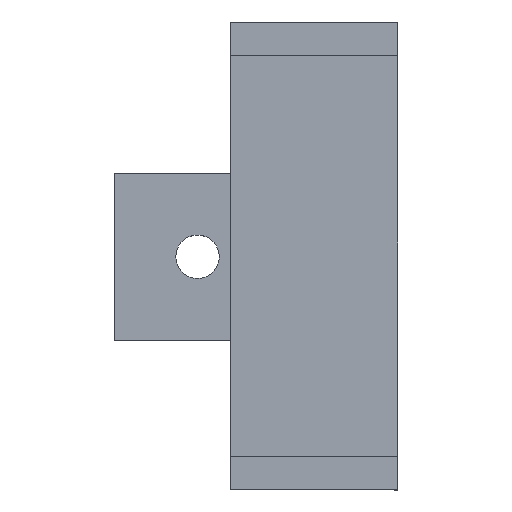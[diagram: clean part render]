
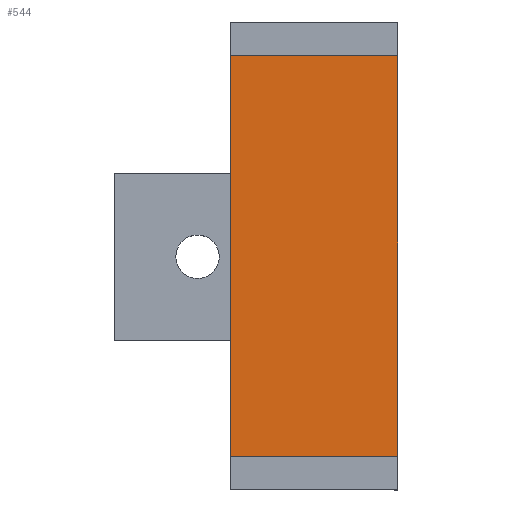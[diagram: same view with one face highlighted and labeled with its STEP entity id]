
A CAD part, top view. The second image highlights one B-rep face of the part: STEP entity #544.
In plain terms, the highlighted planar face has unit normal (0, 0, 1) as drawn and (0, 1, 0) by its records, which use the part's own axes.
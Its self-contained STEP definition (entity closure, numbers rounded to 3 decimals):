
#16 = DIRECTION ( 'NONE',  ( -1., 0., 0. ) ) ;
#26 = EDGE_LOOP ( 'NONE', ( #539, #100, #113, #278 ) ) ;
#62 = LINE ( 'NONE', #482, #244 ) ;
#66 = EDGE_CURVE ( 'NONE', #92, #468, #324, .T. ) ;
#92 = VERTEX_POINT ( 'NONE', #487 ) ;
#100 = ORIENTED_EDGE ( 'NONE', *, *, #538, .F. ) ;
#101 = DIRECTION ( 'NONE',  ( -1., 0., 0. ) ) ;
#110 = AXIS2_PLACEMENT_3D ( 'NONE', #265, #183, #398 ) ;
#113 = ORIENTED_EDGE ( 'NONE', *, *, #499, .F. ) ;
#157 = EDGE_CURVE ( 'NONE', #468, #228, #355, .T. ) ;
#176 = VECTOR ( 'NONE', #354, 1000. ) ;
#183 = DIRECTION ( 'NONE',  ( 0., -1., 0. ) ) ;
#199 = CARTESIAN_POINT ( 'NONE',  ( 12.5, 2.5, 60. ) ) ;
#228 = VERTEX_POINT ( 'NONE', #273 ) ;
#244 = VECTOR ( 'NONE', #16, 1000. ) ;
#265 = CARTESIAN_POINT ( 'NONE',  ( 12.5, 2.5, 60. ) ) ;
#268 = FACE_OUTER_BOUND ( 'NONE', #26, .T. ) ;
#270 = VECTOR ( 'NONE', #101, 1000. ) ;
#273 = CARTESIAN_POINT ( 'NONE',  ( -12.5, 2.5, 0. ) ) ;
#278 = ORIENTED_EDGE ( 'NONE', *, *, #66, .T. ) ;
#281 = DIRECTION ( 'NONE',  ( 0., 0., -1. ) ) ;
#311 = CARTESIAN_POINT ( 'NONE',  ( -12.5, 2.5, 60. ) ) ;
#324 = LINE ( 'NONE', #199, #352 ) ;
#352 = VECTOR ( 'NONE', #281, 1000. ) ;
#354 = DIRECTION ( 'NONE',  ( 0., 0., -1. ) ) ;
#355 = LINE ( 'NONE', #407, #270 ) ;
#398 = DIRECTION ( 'NONE',  ( 1., 0., 0. ) ) ;
#399 = CARTESIAN_POINT ( 'NONE',  ( 12.5, 2.5, 0. ) ) ;
#407 = CARTESIAN_POINT ( 'NONE',  ( 12.5, 2.5, 0. ) ) ;
#468 = VERTEX_POINT ( 'NONE', #399 ) ;
#482 = CARTESIAN_POINT ( 'NONE',  ( 12.5, 2.5, 60. ) ) ;
#487 = CARTESIAN_POINT ( 'NONE',  ( 12.5, 2.5, 60. ) ) ;
#494 = LINE ( 'NONE', #530, #176 ) ;
#499 = EDGE_CURVE ( 'NONE', #92, #507, #62, .T. ) ;
#507 = VERTEX_POINT ( 'NONE', #311 ) ;
#523 = PLANE ( 'NONE',  #110 ) ;
#530 = CARTESIAN_POINT ( 'NONE',  ( -12.5, 2.5, 60. ) ) ;
#538 = EDGE_CURVE ( 'NONE', #507, #228, #494, .T. ) ;
#539 = ORIENTED_EDGE ( 'NONE', *, *, #157, .T. ) ;
#544 = ADVANCED_FACE ( 'NONE', ( #268 ), #523, .F. ) ;
